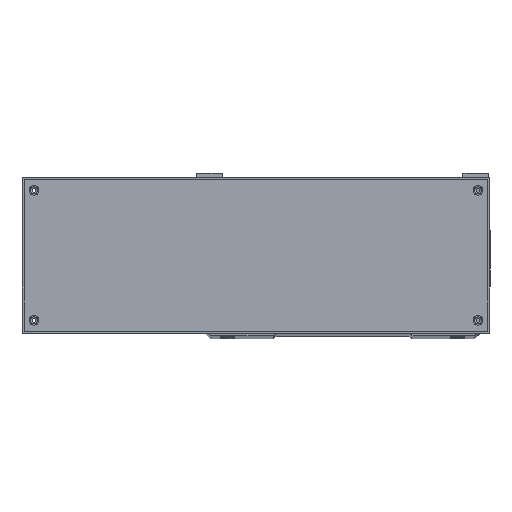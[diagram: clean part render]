
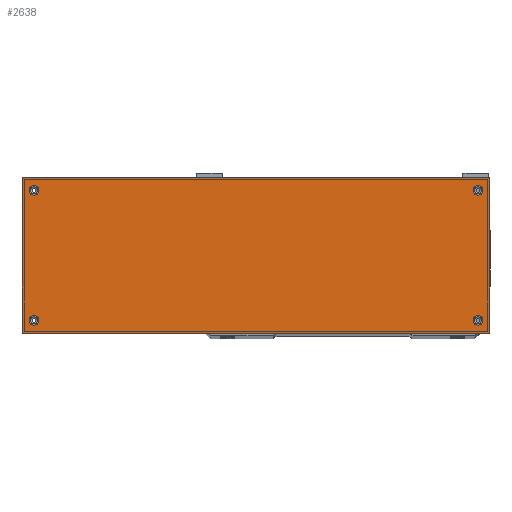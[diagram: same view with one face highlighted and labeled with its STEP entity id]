
A CAD part, top view. The second image highlights one B-rep face of the part: STEP entity #2638.
In plain terms, the highlighted planar face has unit normal (0, 0, 1).
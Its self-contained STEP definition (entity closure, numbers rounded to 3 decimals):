
#894=FACE_BOUND('',#4573,.T.);
#895=FACE_BOUND('',#4574,.T.);
#896=FACE_BOUND('',#4575,.T.);
#897=FACE_BOUND('',#4576,.T.);
#898=FACE_BOUND('',#4577,.T.);
#1948=CIRCLE('',#16251,2.25);
#1950=CIRCLE('',#16254,2.25);
#1952=CIRCLE('',#16257,2.25);
#1954=CIRCLE('',#16260,2.25);
#2638=ADVANCED_FACE('',(#894,#895,#896,#897,#898),#3385,.F.);
#3385=PLANE('',#16266);
#4573=EDGE_LOOP('',(#7027));
#4574=EDGE_LOOP('',(#7028));
#4575=EDGE_LOOP('',(#7029));
#4576=EDGE_LOOP('',(#7030));
#4577=EDGE_LOOP('',(#7031,#7032,#7033,#7034));
#7027=ORIENTED_EDGE('',*,*,#12320,.F.);
#7028=ORIENTED_EDGE('',*,*,#12322,.F.);
#7029=ORIENTED_EDGE('',*,*,#12324,.F.);
#7030=ORIENTED_EDGE('',*,*,#12326,.F.);
#7031=ORIENTED_EDGE('',*,*,#12087,.F.);
#7032=ORIENTED_EDGE('',*,*,#12336,.F.);
#7033=ORIENTED_EDGE('',*,*,#12327,.F.);
#7034=ORIENTED_EDGE('',*,*,#12106,.F.);
#10382=VERTEX_POINT('',#24051);
#10383=VERTEX_POINT('',#24053);
#10394=VERTEX_POINT('',#24086);
#10540=VERTEX_POINT('',#24973);
#10542=VERTEX_POINT('',#24978);
#10544=VERTEX_POINT('',#24983);
#10546=VERTEX_POINT('',#24988);
#10547=VERTEX_POINT('',#24991);
#12087=EDGE_CURVE('',#10382,#10383,#13855,.T.);
#12106=EDGE_CURVE('',#10383,#10394,#13872,.T.);
#12320=EDGE_CURVE('',#10540,#10540,#1948,.T.);
#12322=EDGE_CURVE('',#10542,#10542,#1950,.T.);
#12324=EDGE_CURVE('',#10544,#10544,#1952,.T.);
#12326=EDGE_CURVE('',#10546,#10546,#1954,.T.);
#12327=EDGE_CURVE('',#10394,#10547,#13981,.T.);
#12336=EDGE_CURVE('',#10547,#10382,#13988,.T.);
#13855=LINE('',#24052,#14959);
#13872=LINE('',#24085,#14976);
#13981=LINE('',#24990,#15085);
#13988=LINE('',#25007,#15092);
#14959=VECTOR('',#18670,1.);
#14976=VECTOR('',#18697,1.);
#15085=VECTOR('',#19148,1.);
#15092=VECTOR('',#19161,1.);
#16251=AXIS2_PLACEMENT_3D('',#24972,#19126,#19127);
#16254=AXIS2_PLACEMENT_3D('',#24977,#19132,#19133);
#16257=AXIS2_PLACEMENT_3D('',#24982,#19138,#19139);
#16260=AXIS2_PLACEMENT_3D('',#24987,#19144,#19145);
#16266=AXIS2_PLACEMENT_3D('',#25014,#19167,#19168);
#18670=DIRECTION('',(0.,-1.,0.));
#18697=DIRECTION('',(-1.,0.,0.));
#19126=DIRECTION('',(0.,0.,1.));
#19127=DIRECTION('',(-1.,0.,0.));
#19132=DIRECTION('',(0.,0.,1.));
#19133=DIRECTION('',(1.,0.,0.));
#19138=DIRECTION('',(0.,0.,1.));
#19139=DIRECTION('',(-1.,0.,0.));
#19144=DIRECTION('',(0.,0.,1.));
#19145=DIRECTION('',(1.,0.,0.));
#19148=DIRECTION('',(0.,1.,0.));
#19161=DIRECTION('',(1.,0.,0.));
#19167=DIRECTION('',(0.,0.,-1.));
#19168=DIRECTION('',(1.,0.,0.));
#24051=CARTESIAN_POINT('',(68.,72.,193.));
#24052=CARTESIAN_POINT('',(68.,72.,193.));
#24053=CARTESIAN_POINT('',(68.,0.,193.));
#24085=CARTESIAN_POINT('',(68.,0.,193.));
#24086=CARTESIAN_POINT('',(-148.,0.,193.));
#24972=CARTESIAN_POINT('',(-142.5,6.,193.));
#24973=CARTESIAN_POINT('',(-144.75,6.,193.));
#24977=CARTESIAN_POINT('',(62.5,6.,193.));
#24978=CARTESIAN_POINT('',(64.75,6.,193.));
#24982=CARTESIAN_POINT('',(62.5,66.,193.));
#24983=CARTESIAN_POINT('',(60.25,66.,193.));
#24987=CARTESIAN_POINT('',(-142.5,66.,193.));
#24988=CARTESIAN_POINT('',(-140.25,66.,193.));
#24990=CARTESIAN_POINT('',(-148.,72.,193.));
#24991=CARTESIAN_POINT('',(-148.,72.,193.));
#25007=CARTESIAN_POINT('',(68.,72.,193.));
#25014=CARTESIAN_POINT('',(-40.,36.,193.));
